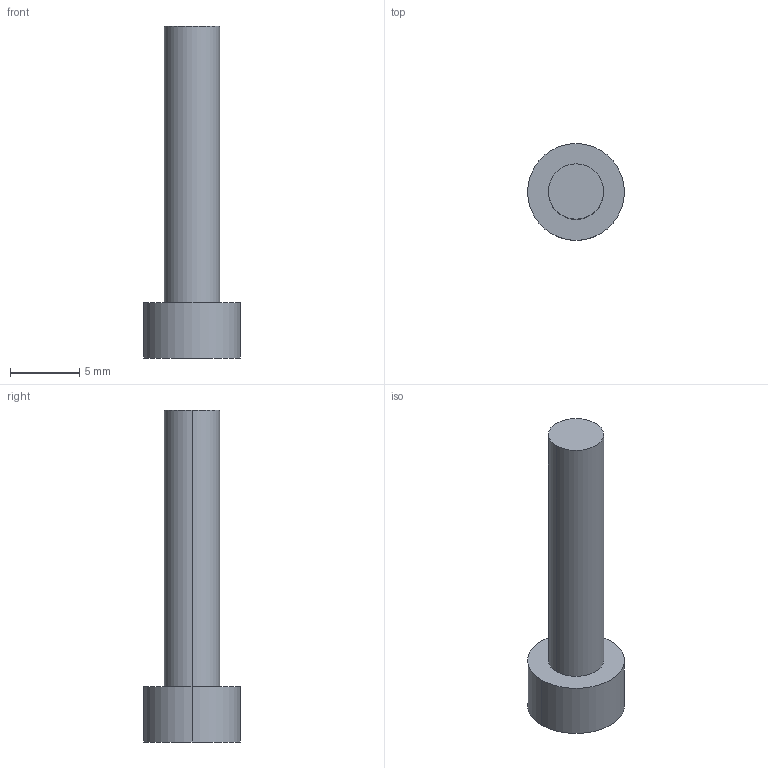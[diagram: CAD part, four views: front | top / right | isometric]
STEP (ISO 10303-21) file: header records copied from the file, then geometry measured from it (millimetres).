
FILE_DESCRIPTION (( 'STEP AP203' ), '1' );
FILE_NAME ('REF_M4x20_screw.step', '2026-10-07T08:22:40', ( '' ), ( '' ), 'SwSTEP 2.0', 'SolidWorks 2025', '' );
FILE_SCHEMA (( 'CONFIG_CONTROL_DESIGN' ));
Length unit declared in the file: millimetre
Products named in the file (1): REF_M4x20_screw
Bounding box: 7 x 7 x 24 mm (x, y, z)
Volume: 405.3 mm3; surface area: 416.3 mm2
Topology: 1 solids, 1 shells, 7 faces, 12 edges, 8 vertices
Faces by surface type: cylinder 4, plane 3
Entity records: 251 total; most frequent: DIRECTION 36, CARTESIAN_POINT 28, ORIENTED_EDGE 24, AXIS2_PLACEMENT_3D 16, EDGE_CURVE 12, CIRCLE 8, EDGE_LOOP 8, PERSON_AND_ORGANIZATION 8
